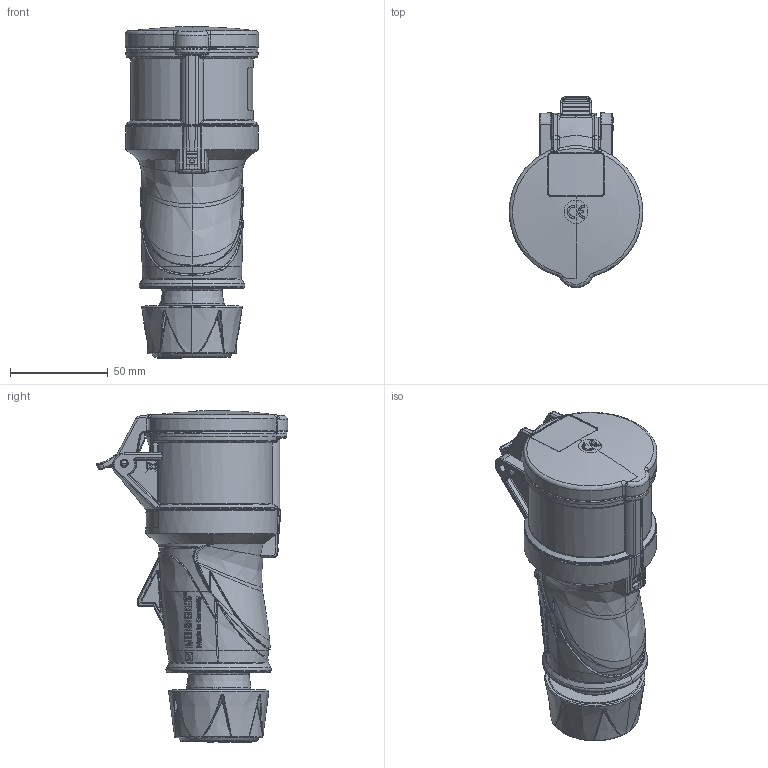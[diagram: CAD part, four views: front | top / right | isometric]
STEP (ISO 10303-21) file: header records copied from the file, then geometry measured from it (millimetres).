
FILE_DESCRIPTION((''),'2;1');
FILE_NAME('1109794_ASM_SW0002','2018-12-18T',('weltickej'),('MENNEKES'),'PRO/ENGINEER BY PARAMETRIC TECHNOLOGY CORPORATION, 2015440','PRO/ENGINEER BY PARAMETRIC TECHNOLOGY CORPORATION, 2015440','');
FILE_SCHEMA(('AUTOMOTIVE_DESIGN { 1 0 10303 214 1 1 1 1 }'));
Length unit declared in the file: millimetre
Products named in the file (1): 1109794_ASM_SW0002
Bounding box: 68.49 x 97.98 x 170.15 mm (x, y, z)
Volume: 426666.9 mm3; surface area: 48446.6 mm2
Topology: 1 solids, 1 shells, 2901 faces, 7351 edges, 4565 vertices
Faces by surface type: bspline 1434, plane 568, extrusion 378, cylinder 308, torus 108, cone 58, sphere 47
Entity records: 183956 total; most frequent: CARTESIAN_POINT 93014, ORIENTED_EDGE 14682, EDGE_CURVE 7341, DIRECTION 7108, FILL_AREA_STYLE_COLOUR 5274, FILL_AREA_STYLE 5274, SURFACE_STYLE_FILL_AREA 5274, SURFACE_SIDE_STYLE 5274
